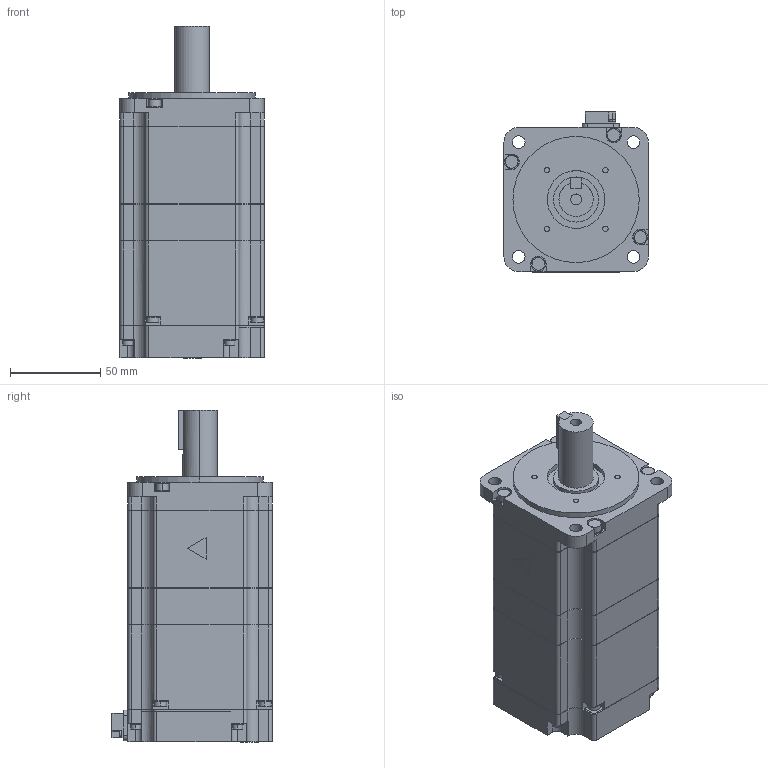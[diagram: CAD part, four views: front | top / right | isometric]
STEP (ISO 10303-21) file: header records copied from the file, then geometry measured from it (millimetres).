
FILE_DESCRIPTION (( 'STEP AP203' ), '1' );
FILE_NAME ('sgm7a_08a_a6c.STEP', '2016-02-19T01:38:00', ( '匠エンジニアリング山之内' ), ( 'TAKUMI-Engniaring' ), 'SwSTEP 2.0', 'SolidWorks 2006303', '' );
FILE_SCHEMA (( 'CONFIG_CONTROL_DESIGN' ));
Length unit declared in the file: millimetre
Products named in the file (3): sgm7a_08a_a6c_base; sgm7a_08a_a6c; sgm7a_08a_a6c_key
Assembly tree (2 placements, depth 2):
  sgm7a_08a_a6c
    sgm7a_08a_a6c_base
    sgm7a_08a_a6c_key
Bounding box: 80.1 x 88.8 x 184.1 mm (x, y, z)
Volume: 833913.5 mm3; surface area: 66601.6 mm2
Topology: 2 solids, 2 shells, 525 faces, 1372 edges, 904 vertices
Faces by surface type: plane 296, cylinder 229
Entity records: 16552 total; most frequent: DIRECTION 2905, CARTESIAN_POINT 2836, ORIENTED_EDGE 2744, EDGE_CURVE 1372, AXIS2_PLACEMENT_3D 1005, VERTEX_POINT 904, VECTOR 895, LINE 895
